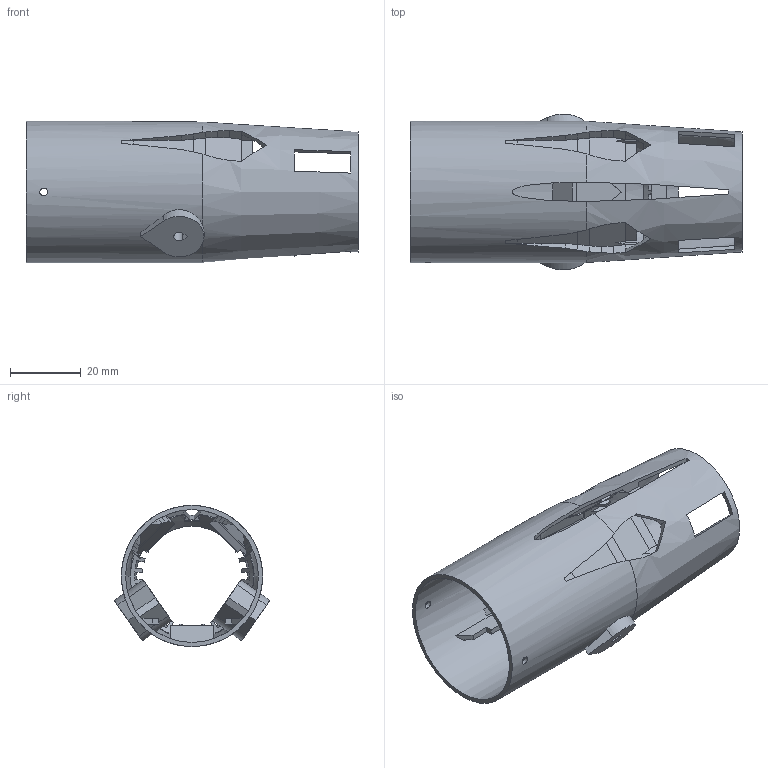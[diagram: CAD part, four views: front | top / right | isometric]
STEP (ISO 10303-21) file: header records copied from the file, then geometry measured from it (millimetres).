
FILE_DESCRIPTION(('Open CASCADE Model'),'2;1');
FILE_NAME('Open CASCADE Shape Model','2026-10-04T21:26:26',('Author'),( 'Open CASCADE'),'Open CASCADE STEP processor 7.9','Open CASCADE 7.9' ,'Unknown');
FILE_SCHEMA(('AUTOMOTIVE_DESIGN { 1 0 10303 214 1 1 1 1 }'));
Length unit declared in the file: millimetre
Products named in the file (1): Open CASCADE STEP translator 7.9 13
Bounding box: 94 x 44.07 x 40 mm (x, y, z)
Volume: 17312.9 mm3; surface area: 24337.6 mm2
Topology: 1 solids, 1 shells, 358 faces, 1064 edges, 702 vertices
Faces by surface type: plane 244, cylinder 56, bspline 42, cone 16
Full cylindrical faces by diameter (mm): 2.2 x2, 37.6 x1, 40 x1
Entity records: 32378 total; most frequent: CARTESIAN_POINT 13611, DIRECTION 2765, ORIENTED_EDGE 2128, PCURVE 2128, DEFINITIONAL_REPRESENTATION 2128, LINE 1370, VECTOR 1370, B_SPLINE_CURVE_WITH_KNOTS 1305
